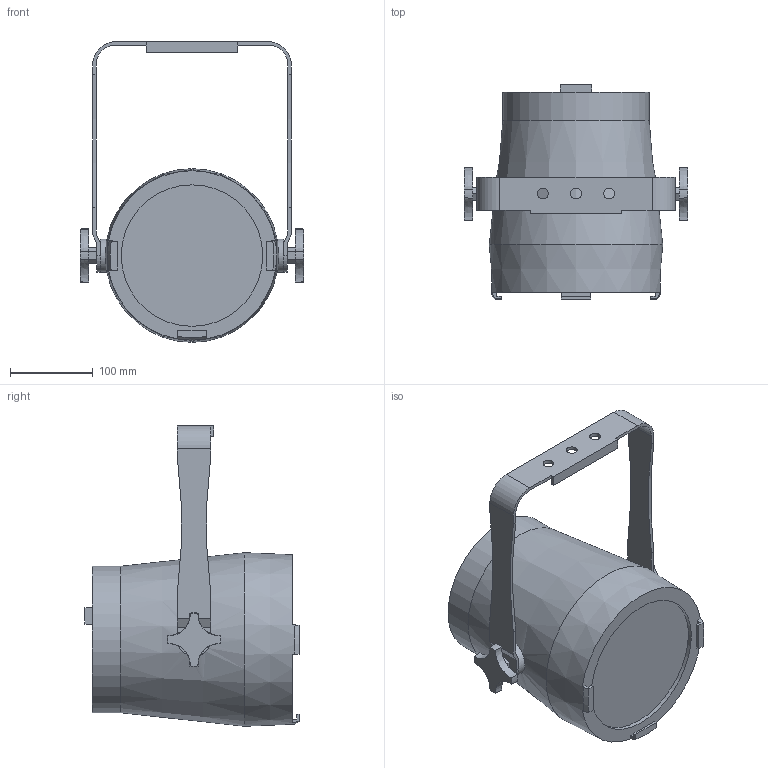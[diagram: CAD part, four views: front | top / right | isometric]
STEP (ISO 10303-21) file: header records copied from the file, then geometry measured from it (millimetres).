
FILE_DESCRIPTION(/* description */ (''),/* implementation_level */ '2;1');
FILE_NAME(/* name */ 'D:/dgooch/Documents/CADENG/PRO/COLORado 3 Solo/90/3D/COLORADO2SOLO v3.step',/* time_stamp */ '2019-09-11T09:54:57-04:00',/* author */ (''),/* organization */ (''),/* preprocessor_version */ 'ST-DEVELOPER v18',/* originating_system */ 'Autodesk Translation Framework v8.6.0.1094',/* authorisation */ '');
FILE_SCHEMA (('AUTOMOTIVE_DESIGN { 1 0 10303 214 3 1 1 }'));
Length unit declared in the file: millimetre
Products named in the file (4): COLORADO2SOLO; Bracket; RD-SS354XCEM-009-A; Main
Assembly tree (3 placements, depth 3):
  COLORADO2SOLO
    Bracket
      RD-SS354XCEM-009-A
    Main
Bounding box: 269.93 x 258.7 x 363.26 mm (x, y, z)
Volume: 7292603.8 mm3; surface area: 306986.1 mm2
Topology: 3 solids, 3 shells, 113 faces, 299 edges, 200 vertices
Faces by surface type: plane 72, cone 21, cylinder 20
Full cylindrical faces by diameter (mm): 9.8 x3, 13 x3, 40 x2, 171 x1, 176.944 x1
Entity records: 3793 total; most frequent: CARTESIAN_POINT 858, ORIENTED_EDGE 598, DIRECTION 584, EDGE_CURVE 299, AXIS2_PLACEMENT_3D 201, VERTEX_POINT 200, LINE 182, VECTOR 182
